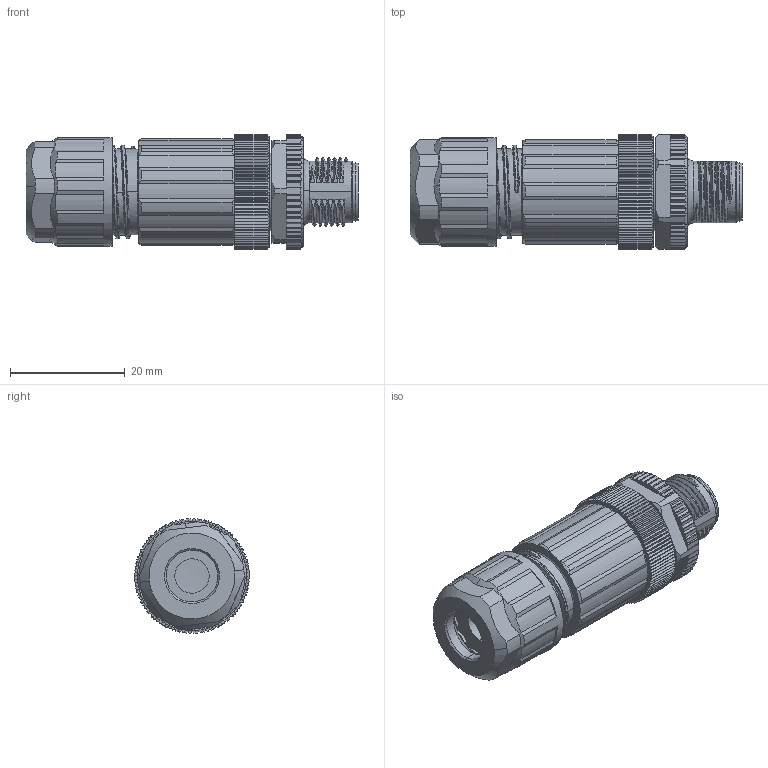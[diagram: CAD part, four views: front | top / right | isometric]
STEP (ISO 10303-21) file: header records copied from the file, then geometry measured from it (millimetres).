
FILE_DESCRIPTION (( 'STEP AP203' ), '1' );
FILE_NAME ('64F281.STEP', '2023-06-24T07:20:03', ( '' ), ( '' ), 'SwSTEP 2.0', 'SolidWorks 2016', '' );
FILE_SCHEMA (( 'CONFIG_CONTROL_DESIGN' ));
Length unit declared in the file: millimetre
Products named in the file (1): 64F281
Bounding box: 57.84 x 20 x 19.99 mm (x, y, z)
Volume: 11847.5 mm3; surface area: 8183 mm2
Topology: 1 solids, 5 shells, 1083 faces, 3016 edges, 1976 vertices
Faces by surface type: plane 524, cylinder 311, cone 170, bspline 65, sphere 10, torus 3
Entity records: 48827 total; most frequent: CARTESIAN_POINT 23299, ORIENTED_EDGE 5988, DIRECTION 4428, EDGE_CURVE 2994, VERTEX_POINT 1965, AXIS2_PLACEMENT_3D 1761, B_SPLINE_CURVE_WITH_KNOTS 1334, EDGE_LOOP 1135
